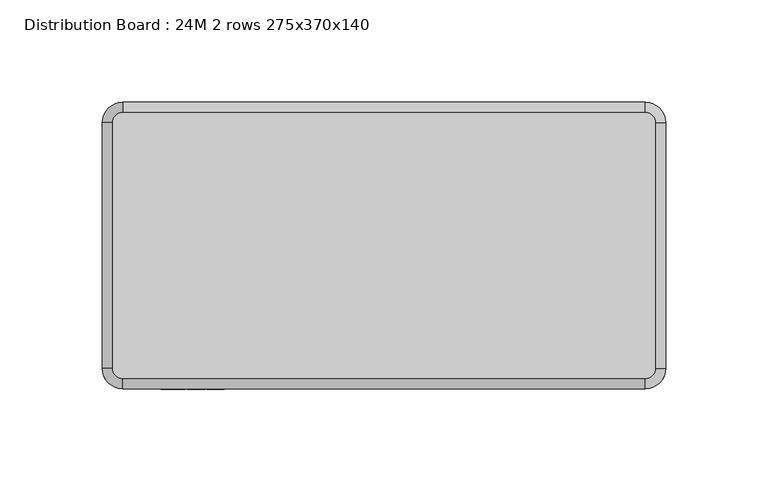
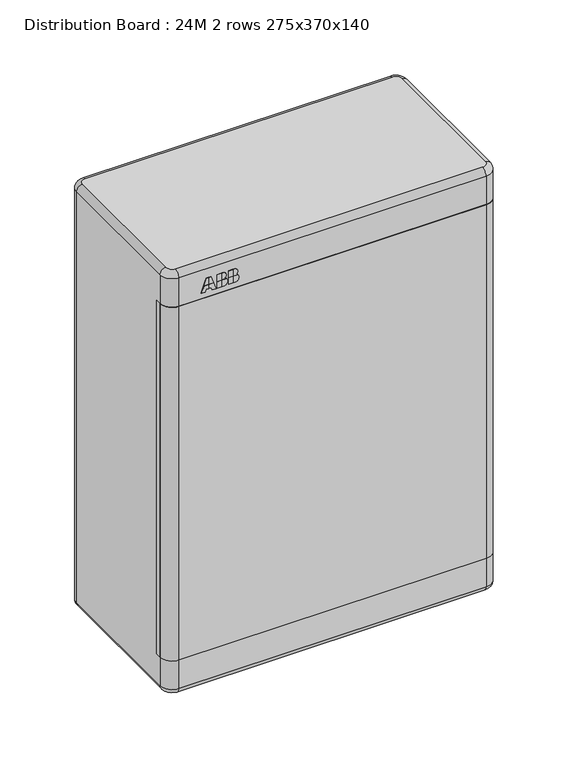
"""IFC4 building model written with IfcOpenShell, lengths in millimetres: proxy geometry, Distribution Board : 24M 2 rows 275x370x140."""

from ifc_helpers import new_model, si_unit, point, frame, frame_2d, origin, place, context, project, spatial, polyline, circle_curve, ellipse_curve, trimmed, segment, composite_curve, outline, extrude, source, transform, mapped, element, save
from ifc_brep_helpers import plane_surface, cylinder_surface, revolved_surface, advanced_brep


def distribution_board_24m_2_rows_275x370x140_6ba21ac3(model_context):
    return source(origin(), model_context, "Body", "SolidModel", [
        extrude(outline(polyline([(345.1941708, -106.0414349), (347.3856382, -105.243806), (347.3856382, -103.125), (350.829502, -103.125), (350.829502, -107.0200835), (345.1941708, -109.0711763), (345.1941708, -106.0414349)])), frame((0.0, -140.3053499, 0.0), z_axis=(0.0, 1.0, 0.0), x_axis=(0.0, 0.0, 1.0)), (0.0, 0.0, 1.0), 0.3053499),
        extrude(outline(polyline([(351.0359746, -103.125), (356.8058292, -103.125), (356.8058292, -104.8448782), (351.0359746, -106.9449335), (351.0359746, -103.125)])), frame((0.0, -140.3053499, 0.0), z_axis=(0.0, 1.0, 0.0), x_axis=(0.0, 0.0, 1.0)), (0.0, 0.0, 1.0), 0.3053499),
        extrude(outline(polyline([(345.1941708, -100.027066), (345.1941708, -96.9973246), (350.829502, -99.0484174), (350.829502, -102.9435008), (347.3856382, -102.9435008), (347.3856382, -100.8246949), (345.1941708, -100.027066)])), frame((0.0, -140.3053499, 0.0), z_axis=(0.0, 1.0, 0.0), x_axis=(0.0, 0.0, 1.0)), (0.0, 0.0, 1.0), 0.3053499),
        extrude(outline(polyline([(351.0359746, -102.9435008), (351.0359746, -99.1235673), (356.8058292, -101.2236226), (356.8058292, -102.9435008), (351.0359746, -102.9435008)])), frame((0.0, -140.3053499, 0.0), z_axis=(0.0, 1.0, 0.0), x_axis=(0.0, 0.0, 1.0)), (0.0, 0.0, 1.0), 0.3053499),
        extrude(outline(polyline([(-96.0193528, -140.0), (-92.4145951, -140.0), (-92.4145951, -140.3053499), (-96.0193528, -140.3053499), (-96.0193528, -140.0)])), frame((0.0, 0.0, 345.1941708), z_axis=(0.0, 0.0, 1.0), x_axis=(1.0, 0.0, 0.0)), (0.0, 0.0, 1.0), 5.6353312),
        extrude(outline(polyline([(-96.0193528, -140.0), (-92.4145951, -140.0), (-92.4145951, -140.3053499), (-96.0193528, -140.3053499), (-96.0193528, -140.0)])), frame((0.0, 0.0, 351.0359746), z_axis=(0.0, 0.0, 1.0), x_axis=(1.0, 0.0, 0.0)), (0.0, 0.0, 1.0), 5.7698546),
        extrude(outline(composite_curve([segment(polyline([(350.829502, -92.1911016), (345.1941708, -92.1911016), (345.1941708, -89.9557921)]), True, "CONTINUOUS"), segment(trimmed(circle_curve(frame_2d((348.5904435, -90.9026251)), 3.5257851), [point((345.1941708, -89.9557921))], [point((350.829502, -88.1790653))], False, "CARTESIAN"), True, "CONTINUOUS"), segment(polyline([(350.829502, -88.1790653), (350.829502, -92.1911016)]), True, "CONTINUOUS")], self_intersect=False)), frame((0.0, -140.3053499, 0.0), z_axis=(0.0, 1.0, 0.0), x_axis=(0.0, 0.0, 1.0)), (0.0, 0.0, 1.0), 0.3053499),
        extrude(outline(composite_curve([segment(polyline([(356.8058292, -92.1911016), (351.0359746, -92.1911016), (351.0359746, -88.3628342)]), True, "CONTINUOUS"), segment(trimmed(circle_curve(frame_2d((348.5904435, -90.9026251)), 3.5257851), [point((351.0359746, -88.3628342))], [point((351.8923901, -89.6663771))], False, "CARTESIAN"), True, "CONTINUOUS"), segment(trimmed(circle_curve(frame_2d((354.1856559, -90.9693787)), 2.6375901), [point((351.8923901, -89.6663771))], [point((356.8058292, -90.6667682))], False, "CARTESIAN"), True, "CONTINUOUS"), segment(polyline([(356.8058292, -90.6667682), (356.8058292, -92.1911016)]), True, "CONTINUOUS")], self_intersect=False)), frame((0.0, -140.3053499, 0.0), z_axis=(0.0, 1.0, 0.0), x_axis=(0.0, 0.0, 1.0)), (0.0, 0.0, 1.0), 0.3053499),
        extrude(outline(polyline([(-86.5094997, -140.0), (-82.904742, -140.0), (-82.904742, -140.3053499), (-86.5094997, -140.3053499), (-86.5094997, -140.0)])), frame((0.0, 0.0, 345.1941708), z_axis=(0.0, 0.0, 1.0), x_axis=(1.0, 0.0, 0.0)), (0.0, 0.0, 1.0), 5.6353312),
        extrude(outline(polyline([(-86.5094997, -140.0), (-82.904742, -140.0), (-82.904742, -140.3053499), (-86.5094997, -140.3053499), (-86.5094997, -140.0)])), frame((0.0, 0.0, 351.0359746), z_axis=(0.0, 0.0, 1.0), x_axis=(1.0, 0.0, 0.0)), (0.0, 0.0, 1.0), 5.7698546),
        extrude(outline(composite_curve([segment(polyline([(350.829502, -82.6812484), (345.1941708, -82.6812484), (345.1941708, -80.4459389)]), True, "CONTINUOUS"), segment(trimmed(circle_curve(frame_2d((348.5904435, -81.3927719)), 3.5257851), [point((345.1941708, -80.4459389))], [point((350.829502, -78.6692121))], False, "CARTESIAN"), True, "CONTINUOUS"), segment(polyline([(350.829502, -78.6692121), (350.829502, -82.6812484)]), True, "CONTINUOUS")], self_intersect=False)), frame((0.0, -140.3053499, 0.0), z_axis=(0.0, 1.0, 0.0), x_axis=(0.0, 0.0, 1.0)), (0.0, 0.0, 1.0), 0.3053499),
        extrude(outline(composite_curve([segment(polyline([(356.8058292, -82.6812484), (351.0359746, -82.6812484), (351.0359746, -78.852981)]), True, "CONTINUOUS"), segment(trimmed(circle_curve(frame_2d((348.5904435, -81.3927719)), 3.5257851), [point((351.0359746, -78.852981))], [point((351.8923901, -80.1565239))], False, "CARTESIAN"), True, "CONTINUOUS"), segment(trimmed(circle_curve(frame_2d((354.1856559, -81.4595255)), 2.6375901), [point((351.8923901, -80.1565239))], [point((356.8058292, -81.1569151))], False, "CARTESIAN"), True, "CONTINUOUS"), segment(polyline([(356.8058292, -81.1569151), (356.8058292, -82.6812484)]), True, "CONTINUOUS")], self_intersect=False)), frame((0.0, -140.3053499, 0.0), z_axis=(0.0, 1.0, 0.0), x_axis=(0.0, 0.0, 1.0)), (0.0, 0.0, 1.0), 0.3053499),
        extrude(outline(polyline([(340.0, 137.5), (340.0, -137.5), (30.0, -137.5), (30.0, 137.5), (340.0, 137.5)]), holes=[polyline([(325.0, 122.5), (45.0, 122.5), (45.0, -122.5), (325.0, -122.5), (325.0, 122.5)])]), frame((0.0, -130.0, 0.0), z_axis=(0.0, 1.0, 0.0), x_axis=(0.0, 0.0, 1.0)), (0.0, 0.0, 1.0), 5.0),
        extrude(outline(composite_curve([segment(trimmed(circle_curve(frame_2d((-127.5, -130.0)), 10.0), [point((-127.5, -140.0))], [point((-137.5, -130.0))], False, "CARTESIAN"), True, "CONTINUOUS"), segment(polyline([(-137.5, -130.0), (137.5, -130.0)]), True, "CONTINUOUS"), segment(trimmed(circle_curve(frame_2d((127.5, -130.0)), 10.0), [point((137.5, -130.0))], [point((127.5, -140.0))], False, "CARTESIAN"), True, "CONTINUOUS"), segment(polyline([(127.5, -140.0), (-127.5, -140.0)]), True, "CONTINUOUS")], self_intersect=False)), frame((0.0, 0.0, 30.0), z_axis=(0.0, 0.0, 1.0), x_axis=(1.0, 0.0, 0.0)), (0.0, 0.0, 1.0), 310.0),
        advanced_brep(
        [(132.5, -10.0, 370.0), (127.5, -5.0, 370.0), (-127.5, -5.0, 370.0), (-132.5, -10.0, 370.0), (-132.5, -130.0, 370.0), (-127.5, -135.0, 370.0), (127.5, -135.0, 370.0), (132.5, -130.0, 370.0), (132.5, -130.0, 0.0), (127.5, -135.0, 0.0), (-127.5, -135.0, 0.0), (-132.5, -130.0, 0.0), (-132.5, -10.0, 0.0), (-127.5, -5.0, 0.0), (127.5, -5.0, 0.0), (132.5, -10.0, 0.0), (127.5, 0.0, 5.0), (-127.5, 0.0, 5.0), (-127.5, 0.0, 365.0), (127.5, 0.0, 365.0), (-137.5, -10.0, 5.0), (-137.5, -130.0, 5.0), (-137.5, -130.0, 30.0), (-137.5, -125.0, 30.0), (-137.5, -125.0, 340.0), (-137.5, -130.0, 340.0), (-137.5, -130.0, 365.0), (-137.5, -10.0, 365.0), (-127.5, -140.0, 5.0), (127.5, -140.0, 5.0), (127.5, -140.0, 30.0), (-127.5, -140.0, 30.0), (-127.5, -140.0, 340.0), (127.5, -140.0, 340.0), (127.5, -140.0, 365.0), (-127.5, -140.0, 365.0), (137.5, -130.0, 5.0), (137.5, -10.0, 5.0), (137.5, -10.0, 365.0), (137.5, -130.0, 365.0), (137.5, -130.0, 340.0), (137.5, -125.0, 340.0), (137.5, -125.0, 30.0), (137.5, -130.0, 30.0), (127.5, -10.0, 360.0), (127.5, -130.0, 360.0), (-127.5, -130.0, 360.0), (-127.5, -10.0, 360.0), (127.5, -10.0, 10.0), (-127.5, -10.0, 10.0), (-127.5, -130.0, 10.0), (127.5, -130.0, 10.0), (-127.5, -130.0, 340.0), (-127.5, -125.0, 340.0), (-127.5, -125.0, 30.0), (-127.5, -130.0, 30.0), (127.5, -130.0, 340.0), (127.5, -130.0, 30.0), (127.5, -125.0, 30.0), (127.5, -125.0, 340.0)],
        [
            (0, 1, circle_curve(frame((127.5, -10.0, 370.0), z_axis=(0.0, 0.0, 1.0), x_axis=(0.0, 1.0, 0.0)), 5.0)),
            (1, 2),
            (2, 3, circle_curve(frame((-127.5, -10.0, 370.0), z_axis=(0.0, 0.0, 1.0), x_axis=(-1.0, 0.0, 0.0)), 5.0)),
            (3, 4),
            (4, 5, circle_curve(frame((-127.5, -130.0, 370.0), z_axis=(0.0, 0.0, 1.0), x_axis=(0.0, -1.0, 0.0)), 5.0)),
            (5, 6),
            (6, 7, circle_curve(frame((127.5, -130.0, 370.0), z_axis=(0.0, 0.0, 1.0), x_axis=(1.0, 0.0, 0.0)), 5.0)),
            (7, 0),
            (8, 9, circle_curve(frame((127.5, -130.0, 0.0), z_axis=(0.0, 0.0, -1.0), x_axis=(1.0, 0.0, 0.0)), 5.0)),
            (9, 10),
            (10, 11, circle_curve(frame((-127.5, -130.0, 0.0), z_axis=(0.0, 0.0, -1.0), x_axis=(0.0, -1.0, 0.0)), 5.0)),
            (11, 12),
            (12, 13, circle_curve(frame((-127.5, -10.0, 0.0), z_axis=(0.0, 0.0, -1.0), x_axis=(-1.0, 0.0, 0.0)), 5.0)),
            (13, 14),
            (14, 15, circle_curve(frame((127.5, -10.0, 0.0), z_axis=(0.0, 0.0, -1.0), x_axis=(0.0, 1.0, 0.0)), 5.0)),
            (15, 8),
            (16, 17),
            (17, 18),
            (18, 19),
            (19, 16),
            (20, 21),
            (21, 22),
            (22, 23),
            (23, 24),
            (24, 25),
            (25, 26),
            (26, 27),
            (27, 20),
            (28, 29),
            (29, 30),
            (30, 31),
            (31, 28),
            (32, 33),
            (33, 34),
            (34, 35),
            (35, 32),
            (36, 37),
            (37, 38),
            (38, 39),
            (39, 40),
            (40, 41),
            (41, 42),
            (42, 43),
            (43, 36),
            (44, 45),
            (45, 46),
            (46, 47),
            (47, 44),
            (48, 49),
            (49, 50),
            (50, 51),
            (51, 48),
            (47, 49),
            (48, 44),
            (46, 52),
            (52, 53),
            (53, 54),
            (54, 55),
            (55, 50),
            (45, 56),
            (56, 52),
            (55, 57),
            (57, 51),
            (57, 58),
            (58, 59),
            (59, 56),
            (17, 20, circle_curve(frame((-127.5, -10.0, 5.0), z_axis=(0.0, 0.0, 1.0), x_axis=(1.0, 0.0, 0.0)), 10.0)),
            (27, 18, circle_curve(frame((-127.5, -10.0, 365.0), z_axis=(0.0, 0.0, -1.0), x_axis=(1.0, 0.0, 0.0)), 10.0)),
            (21, 28, circle_curve(frame((-127.5, -130.0, 5.0), z_axis=(0.0, 0.0, 1.0), x_axis=(1.0, 0.0, 0.0)), 10.0)),
            (31, 22, circle_curve(frame((-127.5, -130.0, 30.0), z_axis=(0.0, 0.0, -1.0), x_axis=(1.0, 0.0, 0.0)), 10.0)),
            (25, 32, circle_curve(frame((-127.5, -130.0, 340.0), z_axis=(0.0, 0.0, 1.0), x_axis=(1.0, 0.0, 0.0)), 10.0)),
            (35, 26, circle_curve(frame((-127.5, -130.0, 365.0), z_axis=(0.0, 0.0, -1.0), x_axis=(1.0, 0.0, 0.0)), 10.0)),
            (29, 36, circle_curve(frame((127.5, -130.0, 5.0), z_axis=(0.0, 0.0, 1.0), x_axis=(1.0, 0.0, 0.0)), 10.0)),
            (43, 30, circle_curve(frame((127.5, -130.0, 30.0), z_axis=(0.0, 0.0, -1.0), x_axis=(1.0, 0.0, 0.0)), 10.0)),
            (33, 40, circle_curve(frame((127.5, -130.0, 340.0), z_axis=(0.0, 0.0, 1.0), x_axis=(1.0, 0.0, 0.0)), 10.0)),
            (39, 34, circle_curve(frame((127.5, -130.0, 365.0), z_axis=(0.0, 0.0, -1.0), x_axis=(1.0, 0.0, 0.0)), 10.0)),
            (37, 16, circle_curve(frame((127.5, -10.0, 5.0), z_axis=(0.0, 0.0, 1.0), x_axis=(1.0, 0.0, 0.0)), 10.0)),
            (19, 38, circle_curve(frame((127.5, -10.0, 365.0), z_axis=(0.0, 0.0, -1.0), x_axis=(1.0, 0.0, 0.0)), 10.0)),
            (29, 9, circle_curve(frame((127.5, -135.0, 5.0), z_axis=(1.0, 0.0, 0.0), x_axis=(0.0, 1.0, 0.0)), 5.0)),
            (8, 36, circle_curve(frame((132.5, -130.0, 5.0), z_axis=(0.0, -1.0, 0.0), x_axis=(-1.0, 0.0, 0.0)), 5.0)),
            (28, 10, circle_curve(frame((-127.5, -135.0, 5.0), z_axis=(1.0, 0.0, 0.0), x_axis=(0.0, 1.0, 0.0)), 5.0)),
            (21, 11, circle_curve(frame((-132.5, -130.0, 5.0), z_axis=(0.0, -1.0, 0.0), x_axis=(1.0, 0.0, 0.0)), 5.0)),
            (20, 12, circle_curve(frame((-132.5, -10.0, 5.0), z_axis=(2.2654200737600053e-12, -1.0, 0.0), x_axis=(1.0, 2.2654200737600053e-12, 0.0)), 5.0)),
            (17, 13, circle_curve(frame((-127.5, -5.0, 5.0), z_axis=(-1.0, 0.0, 0.0), x_axis=(0.0, -1.0, 0.0)), 5.0)),
            (16, 14, circle_curve(frame((127.5, -5.0, 5.0), z_axis=(-1.0, 0.0, 0.0), x_axis=(0.0, -1.0, 0.0)), 5.0)),
            (37, 15, circle_curve(frame((132.5, -10.0, 5.0), z_axis=(0.0, 1.0, 0.0), x_axis=(-1.0, 0.0, 0.0)), 5.0)),
            (54, 23),
            (42, 58),
            (24, 53),
            (59, 41),
            (0, 38, circle_curve(frame((132.5, -10.0, 365.0), z_axis=(0.0, 1.0, 0.0), x_axis=(1.0, 0.0, 0.0)), 5.0)),
            (19, 1, circle_curve(frame((127.5, -5.0, 365.0), z_axis=(1.0, 0.0, 0.0), x_axis=(0.0, 1.0, 0.0)), 5.0)),
            (7, 39, circle_curve(frame((132.5, -130.0, 365.0), z_axis=(0.0, 1.0, 0.0), x_axis=(1.0, 0.0, 0.0)), 5.0)),
            (6, 34, circle_curve(frame((127.5, -135.0, 365.0), z_axis=(1.0, 0.0, 0.0), x_axis=(0.0, -1.0, 0.0)), 5.0)),
            (5, 35, circle_curve(frame((-127.5, -135.0, 365.0), z_axis=(1.0, 0.0, 0.0), x_axis=(0.0, -1.0, 0.0)), 5.0)),
            (4, 26, circle_curve(frame((-132.5, -130.0, 365.0), z_axis=(0.0, -1.0, 0.0), x_axis=(-1.0, 0.0, 0.0)), 5.0)),
            (3, 27, circle_curve(frame((-132.5, -10.0, 365.0), z_axis=(0.0, -1.0, 0.0), x_axis=(-1.0, 0.0, 0.0)), 5.0)),
            (2, 18, circle_curve(frame((-127.5, -5.0, 365.0), z_axis=(-1.0, 0.0, 0.0), x_axis=(0.0, 1.0, 0.0)), 5.0)),
        ],
        [
            plane_surface(frame((-127.5, 0.0, 370.0), z_axis=(0.0, 0.0, 1.0), x_axis=(-1.0, 0.0, 0.0))),
            plane_surface(frame((-127.5, 0.0, 0.0), z_axis=(0.0, 0.0, -1.0), x_axis=(1.0, 0.0, 0.0))),
            plane_surface(frame((127.5, 0.0, 370.0), z_axis=(0.0, 1.0, 0.0), x_axis=(0.0, 0.0, -1.0))),
            plane_surface(frame((-137.5, -10.0, 370.0), z_axis=(-1.0, -2.2654200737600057e-12, 0.0), x_axis=(0.0, 0.0, -1.0))),
            plane_surface(frame((-127.5, -140.0, 370.0), z_axis=(0.0, -1.0, 0.0), x_axis=(0.0, 0.0, -1.0))),
            plane_surface(frame((137.5, -130.0, 370.0), z_axis=(1.0, 0.0, 0.0), x_axis=(0.0, 0.0, -1.0))),
            plane_surface(frame((-127.5, -10.0, 360.0), z_axis=(0.0, 0.0, -1.0), x_axis=(-1.0, 0.0, 0.0))),
            plane_surface(frame((-127.5, -10.0, 10.0), z_axis=(0.0, 0.0, 1.0), x_axis=(1.0, 0.0, 0.0))),
            plane_surface(frame((127.5, -10.0, 360.0), z_axis=(0.0, -1.0, 0.0), x_axis=(0.0, 0.0, -1.0))),
            plane_surface(frame((-127.5, -10.0, 360.0), z_axis=(1.0, 0.0, 0.0), x_axis=(0.0, 0.0, -1.0))),
            plane_surface(frame((-127.5, -130.0, 360.0), z_axis=(0.0, 1.0, 0.0), x_axis=(0.0, 0.0, -1.0))),
            plane_surface(frame((127.5, -130.0, 360.0), z_axis=(-1.0, 0.0, 0.0), x_axis=(0.0, 0.0, -1.0))),
            cylinder_surface(frame((-127.5, -10.0, 0.0), z_axis=(0.0, 0.0, 1.0), x_axis=(1.0, 0.0, 0.0)), 10.0),
            cylinder_surface(frame((-127.5, -130.0, 0.0), z_axis=(0.0, 0.0, 1.0), x_axis=(1.0, 0.0, 0.0)), 10.0),
            cylinder_surface(frame((127.5, -130.0, 0.0), z_axis=(0.0, 0.0, 1.0), x_axis=(1.0, 0.0, 0.0)), 10.0),
            cylinder_surface(frame((127.5, -10.0, 0.0), z_axis=(0.0, 0.0, 1.0), x_axis=(1.0, 0.0, 0.0)), 10.0),
            revolved_surface(trimmed(ellipse_curve(frame((132.5, -130.0, 5.0), z_axis=(0.0, 1.0, 0.0), x_axis=(-1.0, 0.0, 0.0)), 5.0, 5.0), [point((137.5, -130.0, 5.0))], [point((132.5, -130.0, 0.0))], True, "CARTESIAN"), (127.5, -130.0, 0.0), (0.0, 0.0, -1.0)),
            cylinder_surface(frame((127.5, -135.0, 5.0), z_axis=(-1.0, 0.0, 0.0), x_axis=(0.0, 1.0, 0.0)), 5.0),
            revolved_surface(trimmed(ellipse_curve(frame((-127.5, -135.0, 5.0), z_axis=(1.0, 0.0, 0.0), x_axis=(0.0, 1.0, 0.0)), 5.0, 5.0), [point((-127.5, -140.0, 5.0))], [point((-127.5, -135.0, 0.0))], True, "CARTESIAN"), (-127.5, -130.0, 0.0), (0.0, 0.0, -1.0)),
            cylinder_surface(frame((-132.5, -130.0, 5.0), z_axis=(-2.2654200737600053e-12, 1.0, 0.0), x_axis=(1.0, 2.2654200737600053e-12, 0.0)), 5.0),
            revolved_surface(trimmed(ellipse_curve(frame((-132.5, -10.0, 5.0), z_axis=(0.0, -1.0, 0.0), x_axis=(1.0, 0.0, 0.0)), 5.0, 5.0), [point((-137.5, -10.0, 5.0))], [point((-132.5, -10.0, 0.0))], True, "CARTESIAN"), (-127.5, -10.0, 0.0), (0.0, 0.0, -1.0)),
            cylinder_surface(frame((-127.5, -5.0, 5.0), z_axis=(1.0, 0.0, 0.0), x_axis=(0.0, -1.0, 0.0)), 5.0),
            revolved_surface(trimmed(ellipse_curve(frame((127.5, -5.0, 5.0), z_axis=(-1.0, 0.0, 0.0), x_axis=(0.0, -1.0, 0.0)), 5.0, 5.0), [point((127.5, 0.0, 5.0))], [point((127.5, -5.0, 0.0))], True, "CARTESIAN"), (127.5, -10.0, 0.0), (0.0, 0.0, -1.0)),
            cylinder_surface(frame((132.5, -10.0, 5.0), z_axis=(0.0, -1.0, 0.0), x_axis=(-1.0, 0.0, 0.0)), 5.0),
            plane_surface(frame((137.5, -125.0, 30.0), z_axis=(0.0, 0.0, 1.0), x_axis=(0.0, -1.0, 0.0))),
            plane_surface(frame((137.5, -125.0, 340.0), z_axis=(0.0, 0.0, -1.0), x_axis=(0.0, 1.0, 0.0))),
            plane_surface(frame((-137.5, -125.0, 30.0), z_axis=(0.0, -1.0, 0.0), x_axis=(0.0, 0.0, 1.0))),
            revolved_surface(trimmed(ellipse_curve(frame((127.5, -5.0, 365.0), z_axis=(-1.0, 0.0, 0.0), x_axis=(0.0, 1.0, 0.0)), 5.0, 5.0), [point((127.5, -5.0, 370.0))], [point((127.5, 0.0, 365.0))], True, "CARTESIAN"), (127.5, -10.0, 0.0), (0.0, 0.0, -1.0)),
            cylinder_surface(frame((132.5, -10.0, 365.0), z_axis=(0.0, -1.0, 0.0), x_axis=(1.0, 0.0, 0.0)), 5.0),
            revolved_surface(trimmed(ellipse_curve(frame((132.5, -130.0, 365.0), z_axis=(0.0, 1.0, 0.0), x_axis=(1.0, 0.0, 0.0)), 5.0, 5.0), [point((132.5, -130.0, 370.0))], [point((137.5, -130.0, 365.0))], True, "CARTESIAN"), (127.5, -130.0, 0.0), (0.0, 0.0, -1.0)),
            cylinder_surface(frame((127.5, -135.0, 365.0), z_axis=(-1.0, 0.0, 0.0), x_axis=(0.0, -1.0, 0.0)), 5.0),
            revolved_surface(trimmed(ellipse_curve(frame((-127.5, -135.0, 365.0), z_axis=(1.0, 0.0, 0.0), x_axis=(0.0, -1.0, 0.0)), 5.0, 5.0), [point((-127.5, -135.0, 370.0))], [point((-127.5, -140.0, 365.0))], True, "CARTESIAN"), (-127.5, -130.0, 0.0), (0.0, 0.0, -1.0)),
            cylinder_surface(frame((-132.5, -130.0, 365.0), z_axis=(0.0, 1.0, 0.0), x_axis=(-1.0, 0.0, 0.0)), 5.0),
            revolved_surface(trimmed(ellipse_curve(frame((-132.5, -10.0, 365.0), z_axis=(0.0, -1.0, 0.0), x_axis=(-1.0, 0.0, 0.0)), 5.0, 5.0), [point((-132.5, -10.0, 370.0))], [point((-137.5, -10.0, 365.0))], True, "CARTESIAN"), (-127.5, -10.0, 0.0), (0.0, 0.0, -1.0)),
            cylinder_surface(frame((-127.5, -5.0, 365.0), z_axis=(1.0, 0.0, 0.0), x_axis=(0.0, 1.0, 0.0)), 5.0),
        ],
        [
            (0, [[1, 2, 3, 4, 5, 6, 7, 8]]),
            (1, [[9, 10, 11, 12, 13, 14, 15, 16]]),
            (2, [[17, 18, 19, 20]]),
            (3, [[21, 22, 23, 24, 25, 26, 27, 28]]),
            (4, [[29, 30, 31, 32]]),
            (4, [[33, 34, 35, 36]]),
            (5, [[37, 38, 39, 40, 41, 42, 43, 44]]),
            (6, [[45, 46, 47, 48]]),
            (7, [[49, 50, 51, 52]]),
            (8, [[-48, 53, -49, 54]]),
            (9, [[-47, 55, 56, 57, 58, 59, -50, -53]]),
            (10, [[-46, 60, 61, -55]]),
            (10, [[-51, -59, 62, 63]]),
            (11, [[-45, -54, -52, -63, 64, 65, 66, -60]]),
            (12, [[67, -28, 68, -18]]),
            (13, [[69, -32, 70, -22]]),
            (13, [[71, -36, 72, -26]]),
            (14, [[73, -44, 74, -30]]),
            (14, [[75, -40, 76, -34]]),
            (15, [[77, -20, 78, -38]]),
            (16, [[79, -9, 80, -73]]),
            (17, [[-79, -29, 81, -10]]),
            (18, [[-81, -69, 82, -11]]),
            (19, [[-82, -21, 83, -12]]),
            (20, [[-83, -67, 84, -13]]),
            (21, [[-84, -17, 85, -14]]),
            (22, [[-85, -77, 86, -15]]),
            (23, [[-80, -16, -86, -37]]),
            (24, [[87, -23, -70, -31, -74, -43, 88, -64, -62, -58]]),
            (25, [[89, -56, -61, -66, 90, -41, -75, -33, -71, -25]]),
            (26, [[-87, -57, -89, -24]]),
            (26, [[-88, -42, -90, -65]]),
            (27, [[91, -78, 92, -1]]),
            (28, [[-91, -8, 93, -39]]),
            (29, [[-93, -7, 94, -76]]),
            (30, [[-94, -6, 95, -35]]),
            (31, [[-95, -5, 96, -72]]),
            (32, [[-96, -4, 97, -27]]),
            (33, [[-97, -3, 98, -68]]),
            (34, [[-92, -19, -98, -2]]),
        ],
    ),
        extrude(outline(polyline([(-125.0, 325.0), (-125.0, 340.0), (-95.0, 340.0), (-95.0, 260.5963199), (-113.5284713, 286.0985728), (-113.5284713, 308.6169591), (-125.0, 325.0)])), frame((-127.5, 0.0, 0.0), z_axis=(1.0, 0.0, 0.0), x_axis=(0.0, 1.0, 0.0)), (0.0, 0.0, 1.0), 255.0),
        extrude(outline(polyline([(-95.0, 30.0), (-125.0, 30.0), (-125.0, 45.0), (-113.5284713, 61.3830409), (-113.5284713, 109.609434), (-95.0, 84.1071811), (-95.0, 30.0)])), frame((-127.5, 0.0, 0.0), z_axis=(1.0, 0.0, 0.0), x_axis=(0.0, 1.0, 0.0)), (0.0, 0.0, 1.0), 255.0),
        extrude(outline(polyline([(-95.0, 211.0507633), (-95.0, 133.6527377), (-113.5284713, 159.1549906), (-113.5284713, 236.5530162), (-95.0, 211.0507633)])), frame((-127.5, 0.0, 0.0), z_axis=(1.0, 0.0, 0.0), x_axis=(0.0, 1.0, 0.0)), (0.0, 0.0, 1.0), 255.0),
        extrude(outline(polyline([(-122.5, -113.5284713), (-127.5, -125.0), (-127.5, -87.9402054), (-122.5, -87.9402054), (-122.5, -113.5284713)])), frame((0.0, 0.0, 10.0), z_axis=(0.0, 0.0, 1.0), x_axis=(1.0, 0.0, 0.0)), (0.0, 0.0, 1.0), 350.0),
        extrude(outline(polyline([(122.5, -113.5284713), (122.5, -87.9402054), (127.5, -87.9402054), (127.5, -125.0), (122.5, -113.5284713)])), frame((0.0, 0.0, 10.0), z_axis=(0.0, 0.0, 1.0), x_axis=(1.0, 0.0, 0.0)), (0.0, 0.0, 1.0), 350.0),
    ])


if __name__ == "__main__":
    model = new_model("IFC4")
    model_context = context("Model", 3, world=origin())
    ifc_project = project(units=[si_unit("LENGTHUNIT", "METRE", prefix="MILLI")], contexts=[model_context])
    site = spatial("IfcSite", under=ifc_project)
    building = spatial("IfcBuilding", under=site)
    placement = place(None, origin())
    distribution_board_24m_2_rows_275x370x140_shape = distribution_board_24m_2_rows_275x370x140_6ba21ac3(model_context)
    element("IfcBuildingElementProxy", 1, Name="Distribution Board : 24M 2 rows 275x370x140", ObjectType="Distribution Board : 24M 2 rows 275x370x140", at=placement, inside=building, context=model_context, shape_type="MappedRepresentation", body=[
        mapped(distribution_board_24m_2_rows_275x370x140_shape, transform((0.0, 0.0, 0.0), x_axis=(1.0, 0.0, 0.0), y_axis=(0.0, 1.0, 0.0), z_axis=(0.0, 0.0, 1.0))),
    ])
    save(model, "model.ifc")
